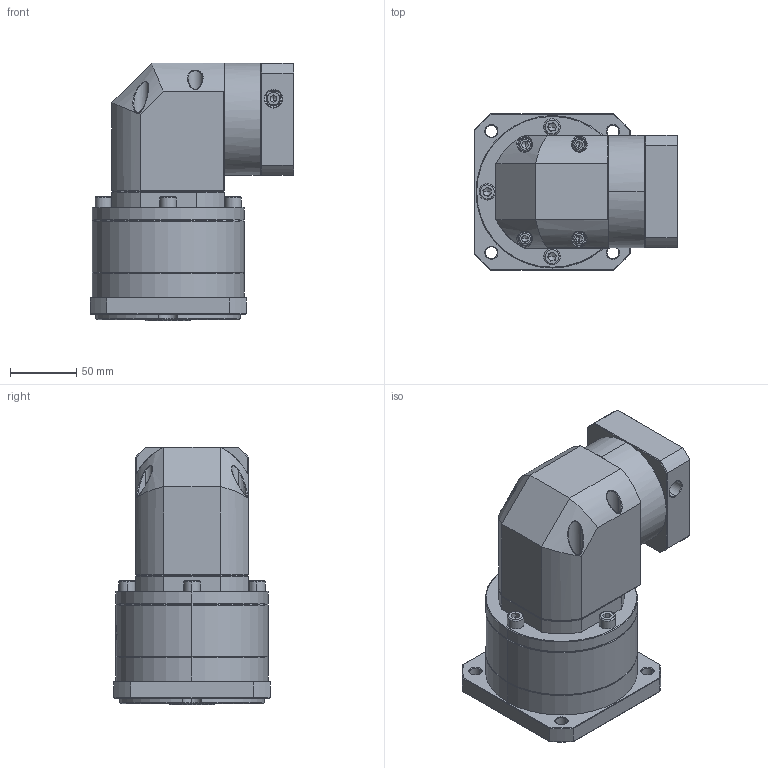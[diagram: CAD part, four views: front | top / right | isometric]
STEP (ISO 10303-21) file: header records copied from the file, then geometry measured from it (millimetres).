
FILE_DESCRIPTION (( 'STEP AP214' ), '1' );
FILE_NAME ('ZFR120A-K25-L2-P2-19-70-90-M6.step', '2023-08-27T09:21:27', ( '' ), ( '' ), 'SwSTEP 2.0', 'SolidWorks 2016', '' );
FILE_SCHEMA (( 'AUTOMOTIVE_DESIGN' ));
Length unit declared in the file: millimetre
Products named in the file (1): ZFR120A-K25-L2-P2-19-70-90-M6
Bounding box: 154.1 x 118 x 195 mm (x, y, z)
Volume: 1810917.7 mm3; surface area: 168931.9 mm2
Topology: 6 solids, 6 shells, 2338 faces, 6113 edges, 3881 vertices
Faces by surface type: plane 1148, bspline 434, cylinder 420, cone 322, torus 14
Entity records: 124487 total; most frequent: CARTESIAN_POINT 46790, ORIENTED_EDGE 12138, DIRECTION 8962, EDGE_CURVE 6069, VERTEX_POINT 3881, VECTOR 3286, LINE 3286, AXIS2_PLACEMENT_3D 2838
